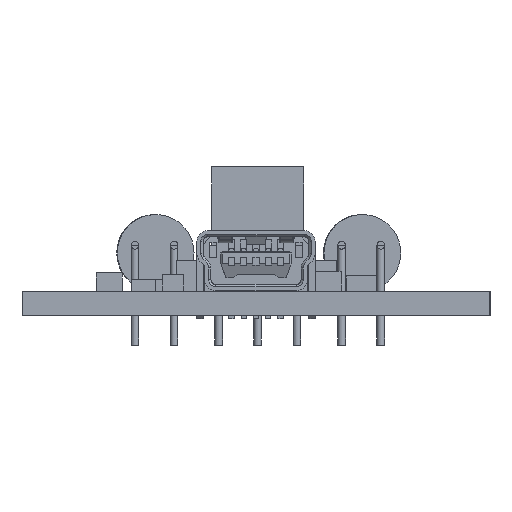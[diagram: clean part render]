
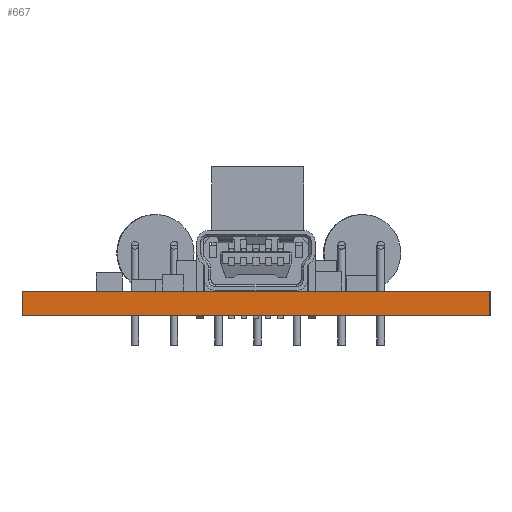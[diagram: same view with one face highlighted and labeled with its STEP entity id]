
A CAD part, left-side view. The second image highlights one B-rep face of the part: STEP entity #667.
In plain terms, the highlighted planar face has unit normal (-1, 0, 0).
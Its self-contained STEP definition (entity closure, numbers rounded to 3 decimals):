
#100 = EDGE_CURVE('',#101,#103,#105,.T.);
#101 = VERTEX_POINT('',#102);
#102 = CARTESIAN_POINT('',(25.4,25.4,0.));
#103 = VERTEX_POINT('',#104);
#104 = CARTESIAN_POINT('',(25.4,25.4,1.6));
#105 = SURFACE_CURVE('',#106,(#110,#122),.PCURVE_S1.);
#106 = LINE('',#107,#108);
#107 = CARTESIAN_POINT('',(25.4,25.4,0.));
#108 = VECTOR('',#109,1.);
#109 = DIRECTION('',(0.,0.,1.));
#110 = PCURVE('',#111,#116);
#111 = PLANE('',#112);
#112 = AXIS2_PLACEMENT_3D('',#113,#114,#115);
#113 = CARTESIAN_POINT('',(25.4,25.4,0.));
#114 = DIRECTION('',(0.,1.,0.));
#115 = DIRECTION('',(1.,0.,0.));
#116 = DEFINITIONAL_REPRESENTATION('',(#117),#121);
#117 = LINE('',#118,#119);
#118 = CARTESIAN_POINT('',(0.,0.));
#119 = VECTOR('',#120,1.);
#120 = DIRECTION('',(0.,-1.));
#121 = ( GEOMETRIC_REPRESENTATION_CONTEXT(2) 
PARAMETRIC_REPRESENTATION_CONTEXT() REPRESENTATION_CONTEXT('2D SPACE',''
  ) );
#122 = PCURVE('',#123,#128);
#123 = PLANE('',#124);
#124 = AXIS2_PLACEMENT_3D('',#125,#126,#127);
#125 = CARTESIAN_POINT('',(25.4,55.88,0.));
#126 = DIRECTION('',(1.,0.,0.));
#127 = DIRECTION('',(0.,-1.,0.));
#128 = DEFINITIONAL_REPRESENTATION('',(#129),#133);
#129 = LINE('',#130,#131);
#130 = CARTESIAN_POINT('',(30.48,0.));
#131 = VECTOR('',#132,1.);
#132 = DIRECTION('',(0.,-1.));
#133 = ( GEOMETRIC_REPRESENTATION_CONTEXT(2) 
PARAMETRIC_REPRESENTATION_CONTEXT() REPRESENTATION_CONTEXT('2D SPACE',''
  ) );
#151 = PLANE('',#152);
#152 = AXIS2_PLACEMENT_3D('',#153,#154,#155);
#153 = CARTESIAN_POINT('',(25.4,25.4,1.6));
#154 = DIRECTION('',(0.,0.,-1.));
#155 = DIRECTION('',(-1.,0.,0.));
#205 = PLANE('',#206);
#206 = AXIS2_PLACEMENT_3D('',#207,#208,#209);
#207 = CARTESIAN_POINT('',(25.4,25.4,0.));
#208 = DIRECTION('',(0.,0.,-1.));
#209 = DIRECTION('',(-1.,0.,0.));
#564 = PLANE('',#565);
#565 = AXIS2_PLACEMENT_3D('',#566,#567,#568);
#566 = CARTESIAN_POINT('',(66.04,55.88,0.));
#567 = DIRECTION('',(0.,-1.,0.));
#568 = DIRECTION('',(-1.,0.,0.));
#602 = VERTEX_POINT('',#603);
#603 = CARTESIAN_POINT('',(25.4,55.88,1.6));
#624 = EDGE_CURVE('',#625,#602,#627,.T.);
#625 = VERTEX_POINT('',#626);
#626 = CARTESIAN_POINT('',(25.4,55.88,0.));
#627 = SURFACE_CURVE('',#628,(#632,#639),.PCURVE_S1.);
#628 = LINE('',#629,#630);
#629 = CARTESIAN_POINT('',(25.4,55.88,0.));
#630 = VECTOR('',#631,1.);
#631 = DIRECTION('',(0.,0.,1.));
#632 = PCURVE('',#564,#633);
#633 = DEFINITIONAL_REPRESENTATION('',(#634),#638);
#634 = LINE('',#635,#636);
#635 = CARTESIAN_POINT('',(40.64,0.));
#636 = VECTOR('',#637,1.);
#637 = DIRECTION('',(0.,-1.));
#638 = ( GEOMETRIC_REPRESENTATION_CONTEXT(2) 
PARAMETRIC_REPRESENTATION_CONTEXT() REPRESENTATION_CONTEXT('2D SPACE',''
  ) );
#639 = PCURVE('',#123,#640);
#640 = DEFINITIONAL_REPRESENTATION('',(#641),#645);
#641 = LINE('',#642,#643);
#642 = CARTESIAN_POINT('',(0.,0.));
#643 = VECTOR('',#644,1.);
#644 = DIRECTION('',(0.,-1.));
#645 = ( GEOMETRIC_REPRESENTATION_CONTEXT(2) 
PARAMETRIC_REPRESENTATION_CONTEXT() REPRESENTATION_CONTEXT('2D SPACE',''
  ) );
#667 = ADVANCED_FACE('',(#668),#123,.F.);
#668 = FACE_BOUND('',#669,.F.);
#669 = EDGE_LOOP('',(#670,#671,#692,#693));
#670 = ORIENTED_EDGE('',*,*,#624,.T.);
#671 = ORIENTED_EDGE('',*,*,#672,.T.);
#672 = EDGE_CURVE('',#602,#103,#673,.T.);
#673 = SURFACE_CURVE('',#674,(#678,#685),.PCURVE_S1.);
#674 = LINE('',#675,#676);
#675 = CARTESIAN_POINT('',(25.4,55.88,1.6));
#676 = VECTOR('',#677,1.);
#677 = DIRECTION('',(0.,-1.,0.));
#678 = PCURVE('',#123,#679);
#679 = DEFINITIONAL_REPRESENTATION('',(#680),#684);
#680 = LINE('',#681,#682);
#681 = CARTESIAN_POINT('',(0.,-1.6));
#682 = VECTOR('',#683,1.);
#683 = DIRECTION('',(1.,0.));
#684 = ( GEOMETRIC_REPRESENTATION_CONTEXT(2) 
PARAMETRIC_REPRESENTATION_CONTEXT() REPRESENTATION_CONTEXT('2D SPACE',''
  ) );
#685 = PCURVE('',#151,#686);
#686 = DEFINITIONAL_REPRESENTATION('',(#687),#691);
#687 = LINE('',#688,#689);
#688 = CARTESIAN_POINT('',(0.,30.48));
#689 = VECTOR('',#690,1.);
#690 = DIRECTION('',(0.,-1.));
#691 = ( GEOMETRIC_REPRESENTATION_CONTEXT(2) 
PARAMETRIC_REPRESENTATION_CONTEXT() REPRESENTATION_CONTEXT('2D SPACE',''
  ) );
#692 = ORIENTED_EDGE('',*,*,#100,.F.);
#693 = ORIENTED_EDGE('',*,*,#694,.F.);
#694 = EDGE_CURVE('',#625,#101,#695,.T.);
#695 = SURFACE_CURVE('',#696,(#700,#707),.PCURVE_S1.);
#696 = LINE('',#697,#698);
#697 = CARTESIAN_POINT('',(25.4,55.88,0.));
#698 = VECTOR('',#699,1.);
#699 = DIRECTION('',(0.,-1.,0.));
#700 = PCURVE('',#123,#701);
#701 = DEFINITIONAL_REPRESENTATION('',(#702),#706);
#702 = LINE('',#703,#704);
#703 = CARTESIAN_POINT('',(0.,0.));
#704 = VECTOR('',#705,1.);
#705 = DIRECTION('',(1.,0.));
#706 = ( GEOMETRIC_REPRESENTATION_CONTEXT(2) 
PARAMETRIC_REPRESENTATION_CONTEXT() REPRESENTATION_CONTEXT('2D SPACE',''
  ) );
#707 = PCURVE('',#205,#708);
#708 = DEFINITIONAL_REPRESENTATION('',(#709),#713);
#709 = LINE('',#710,#711);
#710 = CARTESIAN_POINT('',(0.,30.48));
#711 = VECTOR('',#712,1.);
#712 = DIRECTION('',(0.,-1.));
#713 = ( GEOMETRIC_REPRESENTATION_CONTEXT(2) 
PARAMETRIC_REPRESENTATION_CONTEXT() REPRESENTATION_CONTEXT('2D SPACE',''
  ) );
